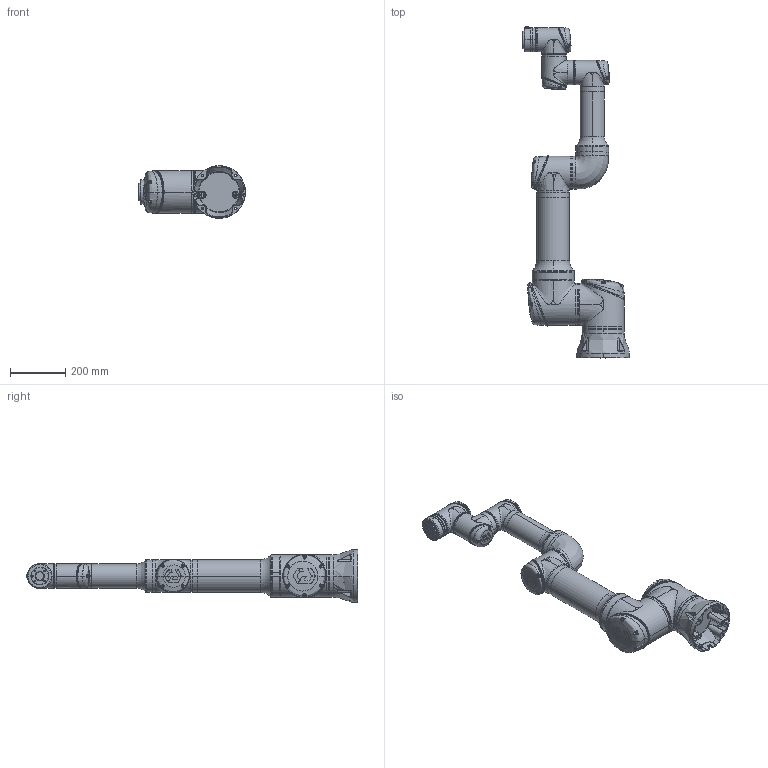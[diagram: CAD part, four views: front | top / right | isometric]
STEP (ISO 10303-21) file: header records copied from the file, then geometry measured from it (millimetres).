
FILE_DESCRIPTION (( 'STEP AP203' ), '1' );
FILE_NAME ('ES_掛极ES618_V1.1.STEP', '2025-07-03T07:27:39', ( '' ), ( '' ), 'SwSTEP 2.0', 'SolidWorks 2017', '' );
FILE_SCHEMA (( 'CONFIG_CONTROL_DESIGN' ));
Length unit declared in the file: millimetre
Products named in the file (8): ES618-Link3; ES618-Link5; ES616-Flange; ES618-Link1; ES618-Base; ES_掛极ES618_V1.1; ES618-Link2; ES618-Link4
Assembly tree (7 placements, depth 2):
  ES_掛极ES618_V1.1
    ES618-Base
    ES618-Link1
    ES618-Link2
    ES618-Link3
    ES618-Link4
    ES618-Link5
    ES616-Flange
Bounding box: 385.68 x 1196.7 x 189.7 mm (x, y, z)
Volume: 19259839.3 mm3; surface area: 1312627.2 mm2
Topology: 80 solids, 101 shells, 5398 faces, 12787 edges, 7591 vertices
Faces by surface type: bspline 2059, plane 1382, cylinder 1045, cone 385, torus 322, sphere 205
Entity records: 439560 total; most frequent: CARTESIAN_POINT 332256, ORIENTED_EDGE 25018, DIRECTION 18377, EDGE_CURVE 12511, AXIS2_PLACEMENT_3D 7773, VERTEX_POINT 7545, EDGE_LOOP 5729, ADVANCED_FACE 5398
